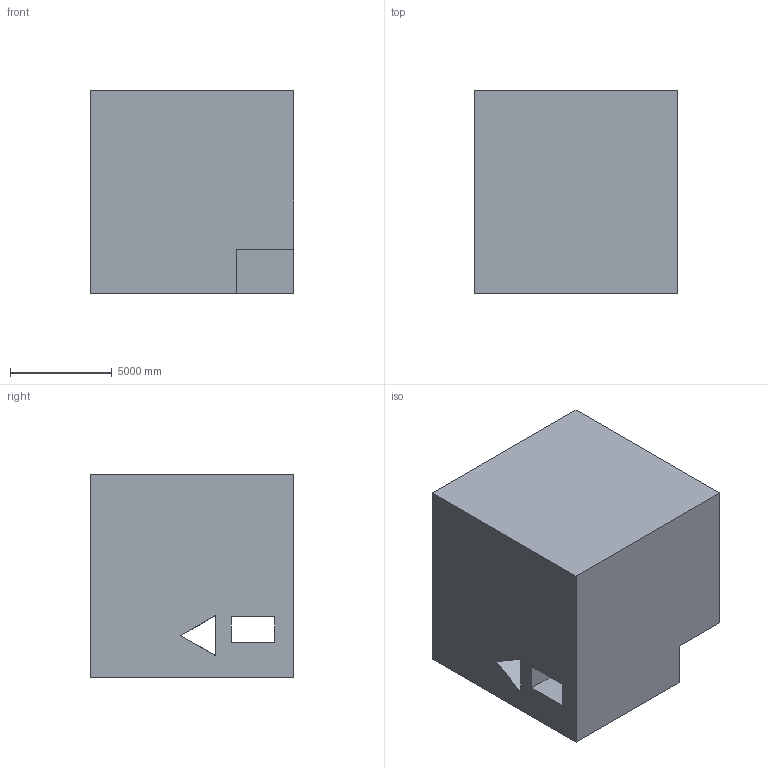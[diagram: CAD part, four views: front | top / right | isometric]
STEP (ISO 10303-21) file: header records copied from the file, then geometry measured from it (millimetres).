
FILE_DESCRIPTION (( 'STEP AP203' ), '1' );
FILE_NAME ('565.STEP', '2022-07-29T11:50:56', ( 'user' ), ( '' ), 'SwSTEP 2.0', 'SolidWorks 2021', '' );
FILE_SCHEMA (( 'CONFIG_CONTROL_DESIGN' ));
Length unit declared in the file: centimetre
Products named in the file (1): 565
Bounding box: 10000 x 10000 x 10000 mm (x, y, z)
Volume: 871929540284 mm3; surface area: 774185817 mm2
Topology: 1 solids, 1 shells, 32 faces, 102 edges, 68 vertices
Faces by surface type: plane 30, cylinder 2
Entity records: 1203 total; most frequent: ORIENTED_EDGE 204, CARTESIAN_POINT 203, DIRECTION 172, EDGE_CURVE 102, VECTOR 98, LINE 98, VERTEX_POINT 68, AXIS2_PLACEMENT_3D 37
